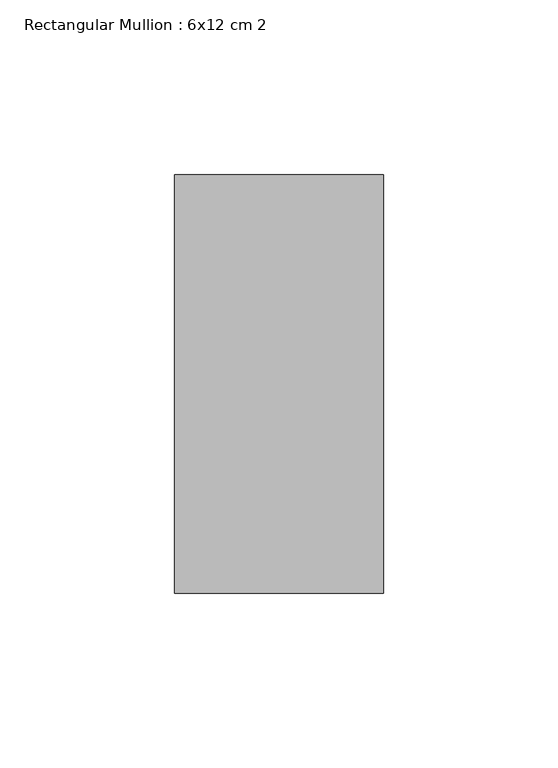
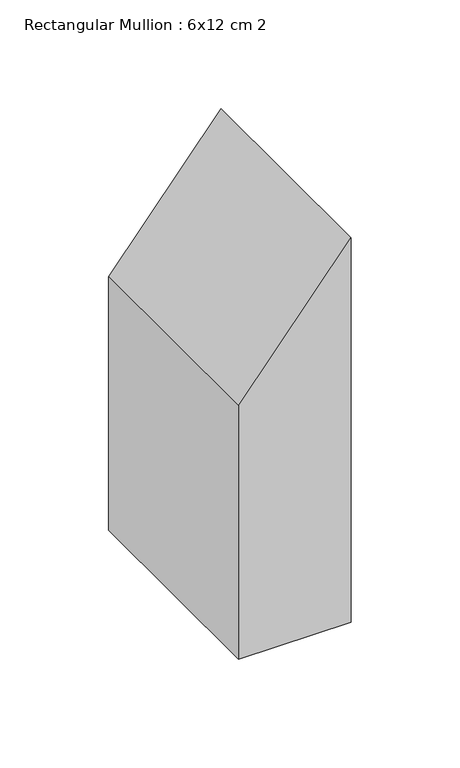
"""IFC4 building model written with IfcOpenShell, lengths in millimetres: member geometry, Rectangular Mullion : 6x12 cm 2."""

from ifc_helpers import new_model, si_unit, frame, origin, place, context, project, spatial, polyline, outline, extrude, source, transform, mapped, element, save


def rectangular_mullion_6x12_cm_2_d75dc150(model_context):
    return source(origin(), model_context, "Body", "SweptSolid", [
        extrude(outline(polyline([(0.0, 0.0), (-73.5127187, -60.0), (-216.1495263, -60.0), (-216.1495263, 0.0), (0.0, 0.0)])), frame((0.0, 85.0, 0.0), z_axis=(0.0, 1.0, 0.0), x_axis=(0.0, 0.0, 1.0)), (0.0, 0.0, 1.0), 120.0),
    ])


if __name__ == "__main__":
    model = new_model("IFC4")
    model_context = context("Model", 3, world=origin())
    ifc_project = project(units=[si_unit("LENGTHUNIT", "METRE", prefix="MILLI")], contexts=[model_context])
    site = spatial("IfcSite", under=ifc_project)
    building = spatial("IfcBuilding", under=site)
    placement = place(None, origin())
    rectangular_mullion_6x12_cm_2_shape = rectangular_mullion_6x12_cm_2_d75dc150(model_context)
    element("IfcMember", 1, ObjectType="Rectangular Mullion : 6x12 cm 2", at=placement, inside=building, context=model_context, shape_type="MappedRepresentation", body=[
        mapped(rectangular_mullion_6x12_cm_2_shape, transform((0.0, 0.0, 0.0), x_axis=(1.0, 0.0, 0.0), y_axis=(0.0, 1.0, 0.0), z_axis=(0.0, 0.0, 1.0))),
    ])
    save(model, "model.ifc")
